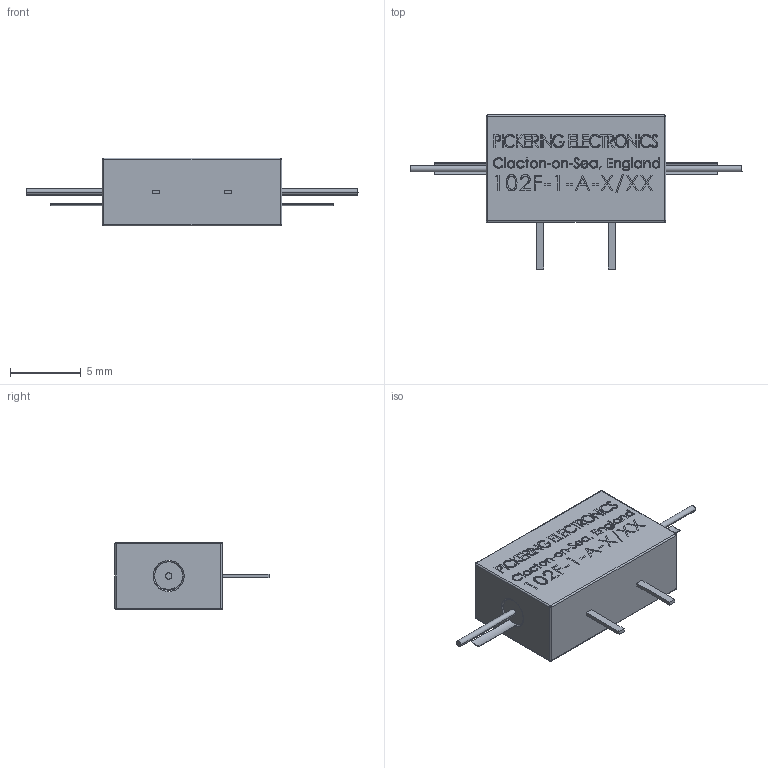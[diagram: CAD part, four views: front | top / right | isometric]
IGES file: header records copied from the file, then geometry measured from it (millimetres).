
Start section: SolidWorks IGES file using analytic representation for surfaces
Global section: file name: T:\Relays in Solidworks\Batch 2\102F-1-A.IGS; native system: SolidWorks 2009; preprocessor: SolidWorks 2009; author: alex.leming; date: 100629.140049; units: millimetre
Bounding box: 23.5 x 10.9 x 4.8 mm (x, y, z)
Surface area: 423.2 mm2 (no closed solid volume)
Topology: 0 solids, 0 shells, 691 faces, 6200 edges, 6194 vertices
Faces by surface type: bspline 657, revolution 34
